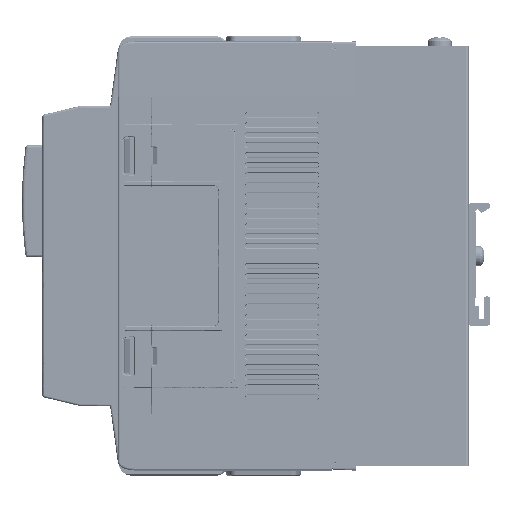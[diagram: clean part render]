
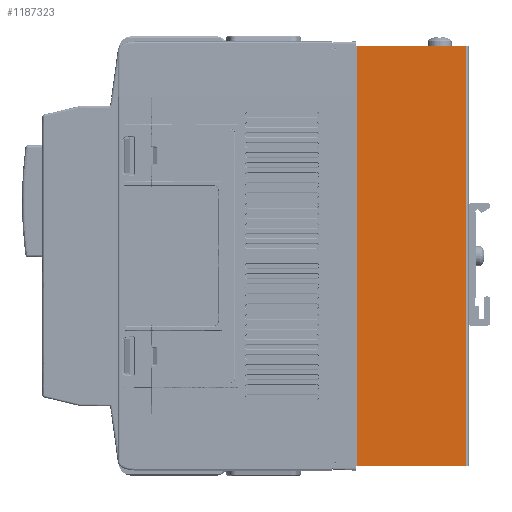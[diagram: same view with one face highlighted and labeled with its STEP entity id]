
A CAD part, front view. The second image highlights one B-rep face of the part: STEP entity #1187323.
In plain terms, the highlighted planar face has unit normal (0, -1, 0) as drawn and (0, 0, 1) by its records, which use the part's own axes.
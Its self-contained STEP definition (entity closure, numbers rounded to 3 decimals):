
#1179465=CARTESIAN_POINT('',(-44.,0.,0.0));
#1179466=VERTEX_POINT('',#1179465);
#1179467=CARTESIAN_POINT('',(-44.0,166.4,0.0));
#1179468=VERTEX_POINT('',#1179467);
#1179469=CARTESIAN_POINT('',(-44.,0.,0.0));
#1179470=DIRECTION('',(0.0,1.0,0.0));
#1179471=VECTOR('',#1179470,166.4);
#1179472=LINE('',#1179469,#1179471);
#1179473=EDGE_CURVE('',#1179466,#1179468,#1179472,.T.);
#1187293=CARTESIAN_POINT('',(-1.,0.,0.0));
#1187294=DIRECTION('',(0.0,0.0,1.0));
#1187295=DIRECTION('',(1.0,0.0,0.0));
#1187296=AXIS2_PLACEMENT_3D('',#1187293,#1187294,#1187295);
#1187297=PLANE('',#1187296);
#1187298=CARTESIAN_POINT('',(-1.,0.,0.0));
#1187299=VERTEX_POINT('',#1187298);
#1187300=CARTESIAN_POINT('',(-1.0,0.,0.0));
#1187301=DIRECTION('',(-1.0,0.0,0.0));
#1187302=VECTOR('',#1187301,43.);
#1187303=LINE('',#1187300,#1187302);
#1187304=EDGE_CURVE('',#1187299,#1179466,#1187303,.T.);
#1187305=ORIENTED_EDGE('',*,*,#1187304,.F.);
#1187306=CARTESIAN_POINT('',(-1.0,166.4,0.0));
#1187307=VERTEX_POINT('',#1187306);
#1187308=CARTESIAN_POINT('',(-1.,0.,0.0));
#1187309=DIRECTION('',(0.0,1.0,0.0));
#1187310=VECTOR('',#1187309,166.4);
#1187311=LINE('',#1187308,#1187310);
#1187312=EDGE_CURVE('',#1187299,#1187307,#1187311,.T.);
#1187313=ORIENTED_EDGE('',*,*,#1187312,.T.);
#1187314=CARTESIAN_POINT('',(-1.,166.4,0.0));
#1187315=DIRECTION('',(-1.0,0.0,0.0));
#1187316=VECTOR('',#1187315,43.);
#1187317=LINE('',#1187314,#1187316);
#1187318=EDGE_CURVE('',#1187307,#1179468,#1187317,.T.);
#1187319=ORIENTED_EDGE('',*,*,#1187318,.T.);
#1187320=ORIENTED_EDGE('',*,*,#1179473,.F.);
#1187321=EDGE_LOOP('',(#1187305,#1187313,#1187319,#1187320));
#1187322=FACE_OUTER_BOUND('',#1187321,.T.);
#1187323=ADVANCED_FACE('',(#1187322),#1187297,.T.);
